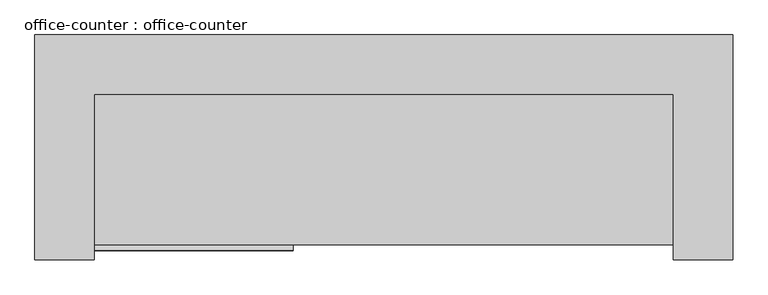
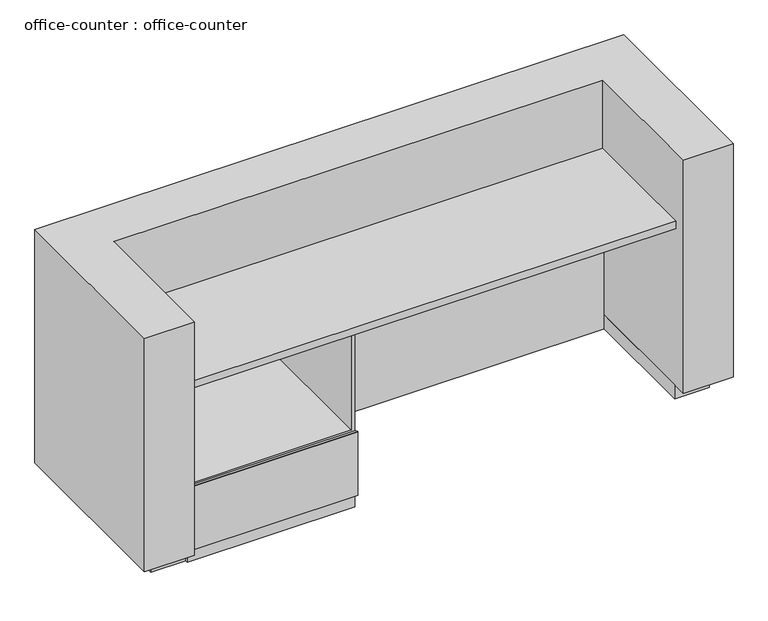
"""IFC4 building model written with IfcOpenShell, lengths in millimetres: proxy geometry, office-counter : office-counter."""

from ifc_helpers import new_model, si_unit, frame, origin, origin_with_axes, place, context, project, spatial, polyline, outline, extrude, source, transform, mapped, element, save


def office_counter_office_counter_5a5246db(model_context):
    return source(origin(), model_context, "Body", "SweptSolid", [
        extrude(outline(polyline([(980.0, -200.0), (980.0, -710.0), (-980.0, -710.0), (-980.0, -200.0), (980.0, -200.0)])), frame((0.0, 0.0, 730.0), z_axis=(0.0, 0.0, 1.0), x_axis=(1.0, 0.0, 0.0)), (0.0, 0.0, 1.0), 30.0),
        extrude(outline(polyline([(1120.0, -60.0), (1120.0, -700.0), (980.0, -700.0), (980.0, -200.0), (-980.0, -200.0), (-980.0, -700.0), (-1120.0, -700.0), (-1120.0, -60.0), (1120.0, -60.0)])), origin_with_axes(), (0.0, 0.0, 1.0), 60.0),
        extrude(outline(polyline([(1180.0, 0.0), (1180.0, -760.0), (980.0, -760.0), (980.0, -200.0), (-980.0, -200.0), (-980.0, -760.0), (-1180.0, -760.0), (-1180.0, 0.0), (1180.0, 0.0)])), frame((0.0, 0.0, 60.0), z_axis=(0.0, 0.0, 1.0), x_axis=(1.0, 0.0, 0.0)), (0.0, 0.0, 1.0), 990.0),
        extrude(outline(polyline([(-710.0, 60.0), (-730.0, 60.0), (-730.0, 330.0), (-727.9166667, 330.0), (-710.0, 322.7205953), (-710.0, 60.0)])), frame((-990.0, 0.0, 0.0), z_axis=(1.0, 0.0, 0.0), x_axis=(0.0, 1.0, 0.0)), (0.0, 0.0, 1.0), 682.9643509),
        extrude(outline(polyline([(730.0, -965.0), (730.0, -980.0), (0.0, -980.0), (0.0, -307.0356491), (730.0, -307.0356491), (730.0, -322.0356491), (330.0, -322.0356491), (330.0, -965.0), (730.0, -965.0)])), frame((0.0, -710.0, 0.0), z_axis=(0.0, 1.0, 0.0), x_axis=(0.0, 0.0, 1.0)), (0.0, 0.0, 1.0), 500.0),
        extrude(outline(polyline([(980.0, -200.0), (980.0, -210.0), (-980.0, -210.0), (-980.0, -200.0), (980.0, -200.0)])), origin_with_axes(), (0.0, 0.0, 1.0), 730.0),
    ])


if __name__ == "__main__":
    model = new_model("IFC4")
    model_context = context("Model", 3, world=origin())
    ifc_project = project(units=[si_unit("LENGTHUNIT", "METRE", prefix="MILLI")], contexts=[model_context])
    site = spatial("IfcSite", under=ifc_project)
    building = spatial("IfcBuilding", under=site)
    placement = place(None, origin())
    office_counter_office_counter_shape = office_counter_office_counter_5a5246db(model_context)
    element("IfcBuildingElementProxy", 1, Name="office-counter : office-counter", ObjectType="office-counter : office-counter", at=placement, inside=building, context=model_context, shape_type="MappedRepresentation", body=[
        mapped(office_counter_office_counter_shape, transform((0.0, 0.0, 0.0), x_axis=(1.0, 0.0, 0.0), y_axis=(0.0, 1.0, 0.0), z_axis=(0.0, 0.0, 1.0))),
    ])
    save(model, "model.ifc")
